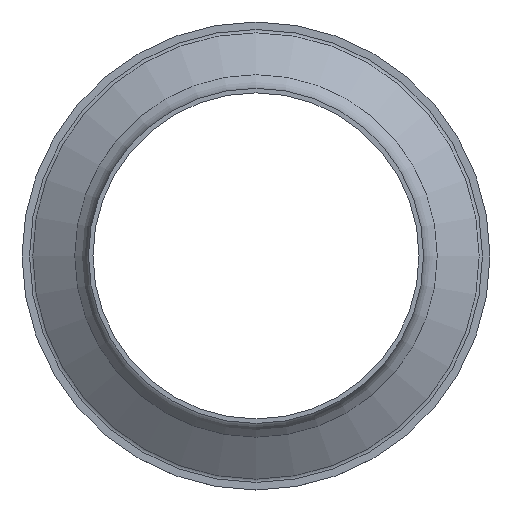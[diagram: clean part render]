
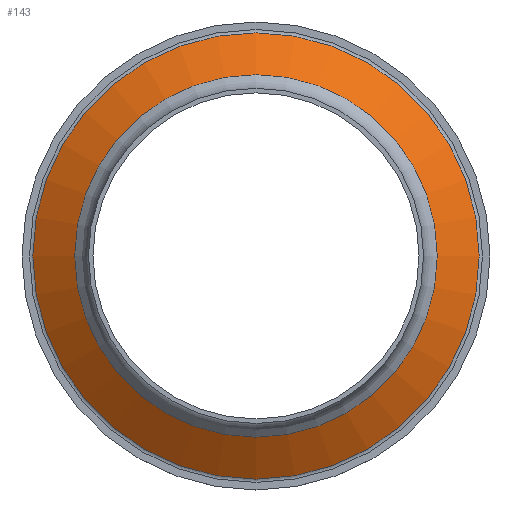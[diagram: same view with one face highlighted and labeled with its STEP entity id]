
A CAD part, top view. The second image highlights one B-rep face of the part: STEP entity #143.
In plain terms, the highlighted conical face has half-angle 56.734 degrees and reference radius 30.007 mm.
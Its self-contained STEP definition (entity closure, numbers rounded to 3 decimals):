
#98=CARTESIAN_POINT('',(36.951,0.,1.664));
#99=VERTEX_POINT('',#98);
#107=CARTESIAN_POINT('',(0.,0.,1.664));
#108=DIRECTION('',(1.,0.,0.));
#109=DIRECTION('',(0.,0.,1.));
#110=AXIS2_PLACEMENT_3D('',#107,#109,#108);
#111=CIRCLE('',#110,36.951);
#112=EDGE_CURVE('',#99,#99,#111,.T.);
#119=CARTESIAN_POINT('',(0.,0.,6.219));
#120=DIRECTION('',(1.,0.,0.));
#121=DIRECTION('',(-0.,-0.,-1.));
#122=AXIS2_PLACEMENT_3D('',#119,#121,#120);
#123=CONICAL_SURFACE('',#122,30.007,0.99);
#124=CARTESIAN_POINT('',(30.007,0.,6.219));
#125=VERTEX_POINT('',#124);
#126=CARTESIAN_POINT('',(36.951,0.,1.664));
#127=DIRECTION('',(-0.836,0.,0.549));
#128=VECTOR('',#127,8.305);
#129=LINE('',#126,#128);
#130=EDGE_CURVE('',#99,#125,#129,.T.);
#131=ORIENTED_EDGE('E3',*,*,#130,.T.);
#132=CARTESIAN_POINT('',(0.,0.,6.219));
#133=DIRECTION('',(1.,0.,0.));
#134=DIRECTION('',(0.,0.,1.));
#135=AXIS2_PLACEMENT_3D('',#132,#134,#133);
#136=CIRCLE('',#135,30.007);
#137=EDGE_CURVE('',#125,#125,#136,.T.);
#138=ORIENTED_EDGE('E12',*,*,#137,.T.);
#139=ORIENTED_EDGE('E12',*,*,#130,.F.);
#140=ORIENTED_EDGE('E12',*,*,#112,.F.);
#141=EDGE_LOOP('',(#131,#138,#139,#140));
#142=FACE_OUTER_BOUND('',#141,.F.);
#143=ADVANCED_FACE('F5',(#142),#123,.T.);
